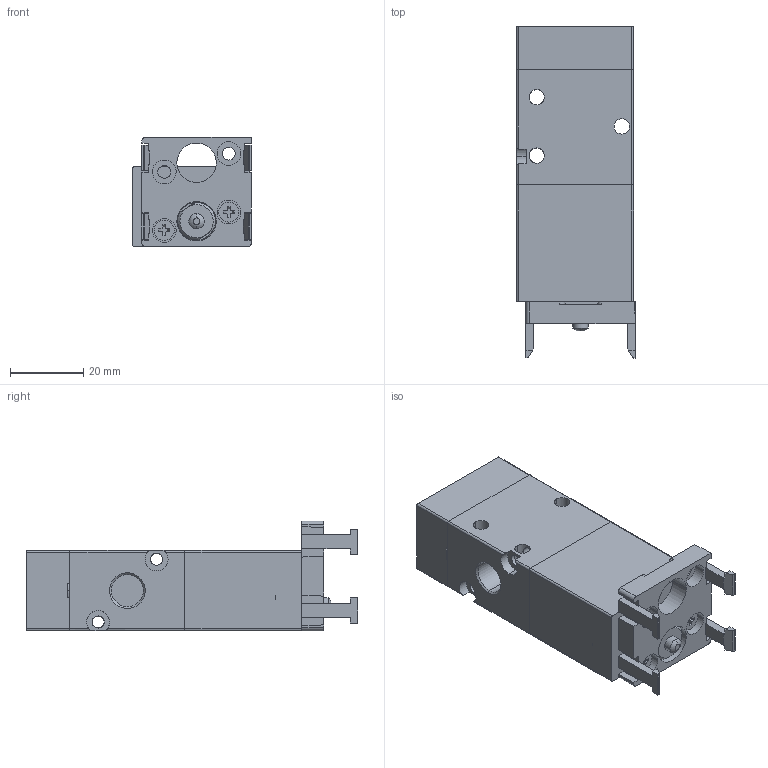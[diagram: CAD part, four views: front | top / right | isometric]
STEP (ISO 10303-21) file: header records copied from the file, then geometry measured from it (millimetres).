
FILE_DESCRIPTION (( 'STEP AP214' ), '1' );
FILE_NAME ('00_061_4.STEP', '2016-01-11T15:54:24', ( '' ), ( '' ), 'SwSTEP 2.0', 'SolidWorks 2016', '' );
FILE_SCHEMA (( 'AUTOMOTIVE_DESIGN' ));
Length unit declared in the file: millimetre
Products named in the file (1): 00_061_4
Bounding box: 32.5 x 90.9 x 30 mm (x, y, z)
Volume: 54750.4 mm3; surface area: 20015 mm2
Topology: 12 solids, 12 shells, 961 faces, 2480 edges, 1558 vertices
Faces by surface type: cone 376, cylinder 270, plane 258, bspline 29, torus 22, sphere 6
Entity records: 32116 total; most frequent: CARTESIAN_POINT 7351, DIRECTION 5386, ORIENTED_EDGE 4916, EDGE_CURVE 2458, AXIS2_PLACEMENT_3D 2095, VERTEX_POINT 1552, VECTOR 1196, LINE 1196
